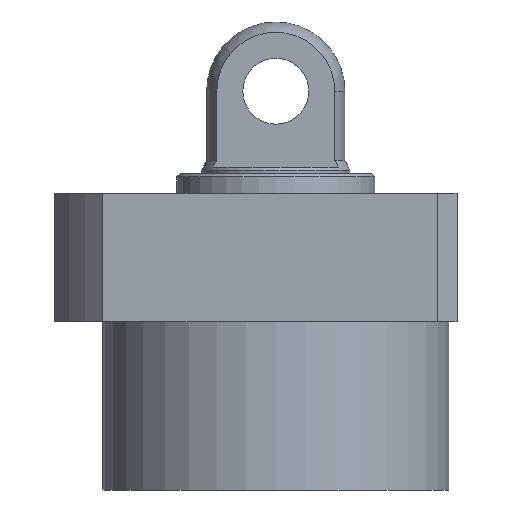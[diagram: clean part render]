
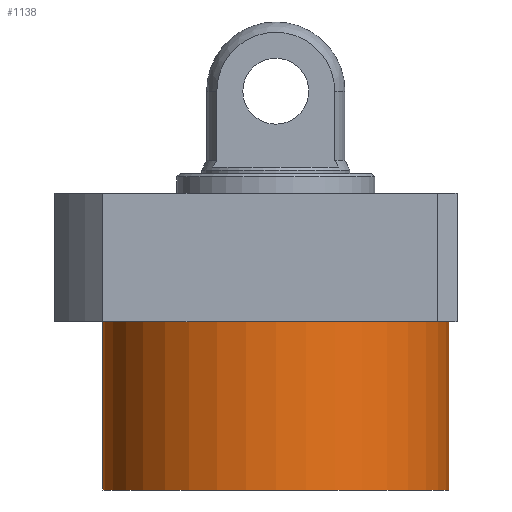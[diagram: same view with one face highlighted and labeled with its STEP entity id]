
A CAD part, front view. The second image highlights one B-rep face of the part: STEP entity #1138.
In plain terms, the highlighted cylindrical face has radius 52.5 mm (diameter 105 mm), a partial arc.
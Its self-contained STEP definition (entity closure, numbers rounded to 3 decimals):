
#12 = AXIS2_PLACEMENT_3D ( 'NONE', #1010, #1438, #599 ) ;
#20 = ORIENTED_EDGE ( 'NONE', *, *, #1019, .T. ) ;
#72 = EDGE_CURVE ( 'NONE', #1570, #555, #491, .T. ) ;
#103 = DIRECTION ( 'NONE',  ( 0., 0., 1. ) ) ;
#117 = VERTEX_POINT ( 'NONE', #1328 ) ;
#185 = ORIENTED_EDGE ( 'NONE', *, *, #72, .T. ) ;
#213 = LINE ( 'NONE', #1462, #1565 ) ;
#258 = CARTESIAN_POINT ( 'NONE',  ( 52.5, 0., -70.5 ) ) ;
#322 = VERTEX_POINT ( 'NONE', #258 ) ;
#421 = DIRECTION ( 'NONE',  ( 0., 0., 1. ) ) ;
#491 = CIRCLE ( 'NONE', #667, 52.5 ) ;
#555 = VERTEX_POINT ( 'NONE', #1419 ) ;
#599 = DIRECTION ( 'NONE',  ( -1., 0., 0. ) ) ;
#631 = EDGE_CURVE ( 'NONE', #322, #117, #633, .T. ) ;
#633 = CIRCLE ( 'NONE', #12, 52.5 ) ;
#667 = AXIS2_PLACEMENT_3D ( 'NONE', #1191, #1594, #1177 ) ;
#674 = VECTOR ( 'NONE', #421, 1000. ) ;
#713 = ORIENTED_EDGE ( 'NONE', *, *, #631, .F. ) ;
#739 = CARTESIAN_POINT ( 'NONE',  ( 0., 0., -70.5 ) ) ;
#827 = ORIENTED_EDGE ( 'NONE', *, *, #913, .F. ) ;
#913 = EDGE_CURVE ( 'NONE', #117, #555, #213, .T. ) ;
#1010 = CARTESIAN_POINT ( 'NONE',  ( 0., 0., -70.5 ) ) ;
#1015 = FACE_OUTER_BOUND ( 'NONE', #1748, .T. ) ;
#1019 = EDGE_CURVE ( 'NONE', #322, #1570, #1103, .T. ) ;
#1069 = AXIS2_PLACEMENT_3D ( 'NONE', #739, #1134, #1142 ) ;
#1103 = LINE ( 'NONE', #1678, #674 ) ;
#1134 = DIRECTION ( 'NONE',  ( 0., 0., 1. ) ) ;
#1138 = ADVANCED_FACE ( 'NONE', ( #1015 ), #1568, .T. ) ;
#1142 = DIRECTION ( 'NONE',  ( 1., 0., 0. ) ) ;
#1177 = DIRECTION ( 'NONE',  ( 1., 0., 0. ) ) ;
#1191 = CARTESIAN_POINT ( 'NONE',  ( 0., 0., -19.5 ) ) ;
#1328 = CARTESIAN_POINT ( 'NONE',  ( -52.5, 0., -70.5 ) ) ;
#1419 = CARTESIAN_POINT ( 'NONE',  ( -52.5, 0., -19.5 ) ) ;
#1438 = DIRECTION ( 'NONE',  ( 0., 0., -1. ) ) ;
#1462 = CARTESIAN_POINT ( 'NONE',  ( -52.5, 0., -70.5 ) ) ;
#1565 = VECTOR ( 'NONE', #103, 1000. ) ;
#1568 = CYLINDRICAL_SURFACE ( 'NONE', #1069, 52.5 ) ;
#1570 = VERTEX_POINT ( 'NONE', #1658 ) ;
#1594 = DIRECTION ( 'NONE',  ( 0., 0., -1. ) ) ;
#1658 = CARTESIAN_POINT ( 'NONE',  ( 52.5, 0., -19.5 ) ) ;
#1678 = CARTESIAN_POINT ( 'NONE',  ( 52.5, 0., -70.5 ) ) ;
#1748 = EDGE_LOOP ( 'NONE', ( #827, #713, #20, #185 ) ) ;
